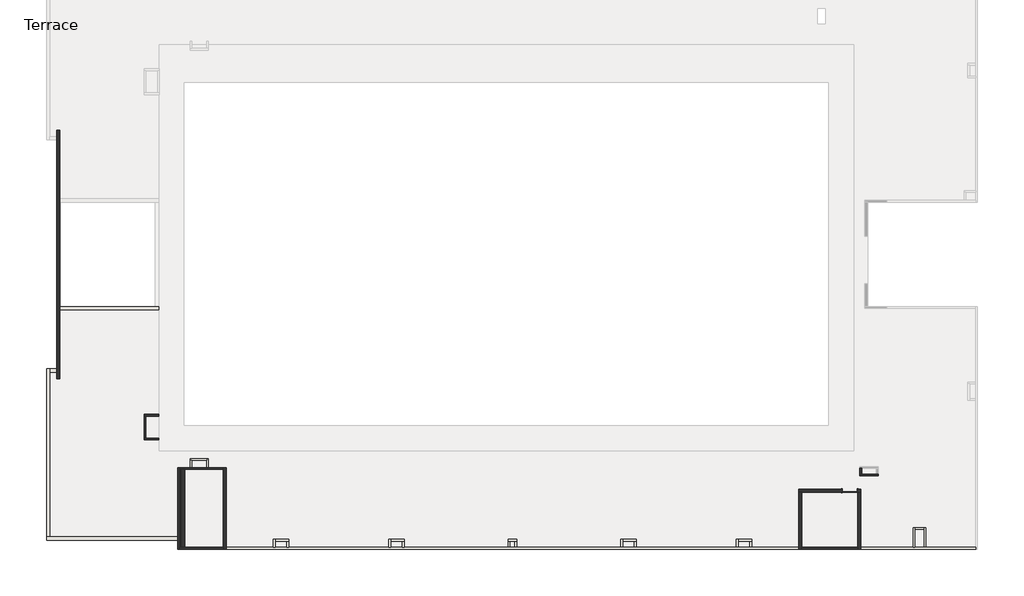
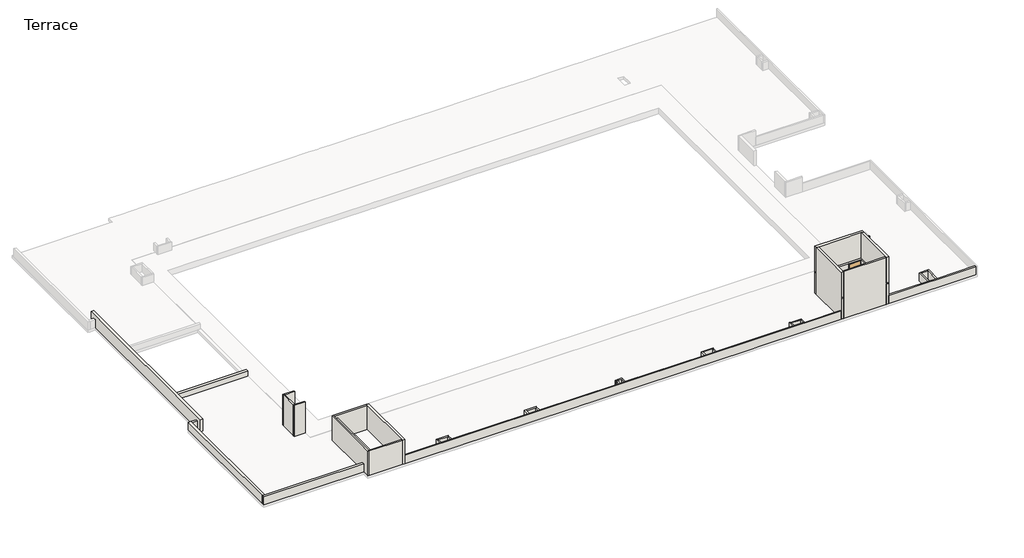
# One storey, part 1 of 3: 42 walls, 1 door.
"""IFC4 building model written with IfcOpenShell, lengths in millimetres."""

import ifcopenshell
import ifcopenshell.guid

model = None  # the IFC model being written
_history = None  # IfcOwnerHistory: only IFC2X3 demands one
_inside = {}  # id of a spatial element -> (the spatial element, [elements in it])
_under = {}  # id of a project, library or spatial element -> (it, [spatial elements below it])
_declared = {}  # id of a project -> (the project, [libraries it declares])
_typed = {}  # id of a type object -> (the type object, [elements of that type])
_made_of = {}  # id of a material, layer set ... -> (it, [elements and type objects made of it])


def new_model(schema):
    """Start an empty IFC model of exactly this schema.

    Asked for "IFC4X3", IfcOpenShell would pick the latest addendum, in which some entities
    have other attributes; the version numbers below select the first issue.
    IFC2X3 requires an IfcOwnerHistory on every rooted entity: one is made here for all.
    """
    global model, _history
    if schema == "IFC4X3":
        model = ifcopenshell.file(schema_version=(4, 3, 0, 0))
    else:
        model = ifcopenshell.file(schema=schema)
    _inside.clear()
    _under.clear()
    _declared.clear()
    _typed.clear()
    _made_of.clear()
    _history = None
    if model.schema == "IFC2X3":
        org = make("IfcOrganization", Name="unknown")
        user = make(
            "IfcPersonAndOrganization",
            ThePerson=make("IfcPerson", FamilyName="unknown"),
            TheOrganization=org,
        )
        app = make(
            "IfcApplication",
            ApplicationDeveloper=org,
            Version="unknown",
            ApplicationFullName="unknown",
            ApplicationIdentifier="unknown",
        )
        _history = make(
            "IfcOwnerHistory",
            OwningUser=user,
            OwningApplication=app,
            ChangeAction="ADDED",
            CreationDate=0,
        )
    return model


def make(cls, **values):
    """One entity of the class cls with the attributes given. An attribute that is None is left unset."""
    return model.create_entity(
        cls, **{name: value for name, value in values.items() if value is not None}
    )


def rooted(cls, **values):
    """An entity with a GlobalId (a new one), such as an element, a storey or a relation."""
    return make(cls, GlobalId=ifcopenshell.guid.new(), OwnerHistory=_history, **values)


def si_unit(unit_type, name, prefix=None):
    """IfcSIUnit, for example si_unit("LENGTHUNIT", "METRE", prefix="MILLI")."""
    return make("IfcSIUnit", UnitType=unit_type, Prefix=prefix, Name=name)


def assignment(units):
    """IfcUnitAssignment: the units of a project."""
    return None if units is None else make("IfcUnitAssignment", Units=units)


def point(xyz):
    """IfcCartesianPoint."""
    return None if xyz is None else make("IfcCartesianPoint", Coordinates=xyz)


def direction(xyz):
    """IfcDirection."""
    return None if xyz is None else make("IfcDirection", DirectionRatios=xyz)


def frame(location, z_axis=None, x_axis=None):
    """IfcAxis2Placement3D, a coordinate frame: its origin and axes. An axis left out is left unset."""
    return make(
        "IfcAxis2Placement3D",
        Location=point(location),
        Axis=direction(z_axis),
        RefDirection=direction(x_axis),
    )


def origin():
    """The frame at (0, 0, 0) with its axes left unset."""
    return frame((0.0, 0.0, 0.0))


def origin_with_axes():
    """The frame at (0, 0, 0) with the z axis (0, 0, 1) and the x axis (1, 0, 0) written out."""
    return frame((0.0, 0.0, 0.0), z_axis=(0.0, 0.0, 1.0), x_axis=(1.0, 0.0, 0.0))


def place(relative_to, where):
    """IfcLocalPlacement: puts the frame where relative to a parent placement (None: the world)."""
    return make(
        "IfcLocalPlacement", PlacementRelTo=relative_to, RelativePlacement=where
    )


def context(
    kind, dimensions, precision=None, world=None, true_north=None, identifier=None
):
    """IfcGeometricRepresentationContext, for example the 3D "Model" context."""
    return make(
        "IfcGeometricRepresentationContext",
        ContextIdentifier=identifier,
        ContextType=kind,
        CoordinateSpaceDimension=dimensions,
        Precision=precision,
        WorldCoordinateSystem=world,
        TrueNorth=true_north,
    )


def project(units=None, contexts=None):
    """IfcProject with its units and contexts."""
    return rooted(
        "IfcProject",
        Name="project",
        RepresentationContexts=contexts,
        UnitsInContext=assignment(units),
    )


def spatial(cls, under=None, at=None, **own):
    """A site, building, storey or space (cls), placed at a placement, below another one or the project."""
    s = rooted(cls, ObjectPlacement=at, **own)
    if under is not None:
        _under.setdefault(under.id(), (under, []))[1].append(s)
    return s


def polyline(points):
    """IfcPolyline through the points."""
    return make("IfcPolyline", Points=[point(p) for p in points])


def outline(outer, holes=None, kind="AREA"):
    """IfcArbitraryClosedProfileDef: a profile drawn as a closed curve; with holes, ...WithVoids."""
    if holes is None:
        return make("IfcArbitraryClosedProfileDef", ProfileType=kind, OuterCurve=outer)
    return make(
        "IfcArbitraryProfileDefWithVoids",
        ProfileType=kind,
        OuterCurve=outer,
        InnerCurves=holes,
    )


def extrude(swept, where, along, depth):
    """IfcExtrudedAreaSolid: the profile swept, set in the frame where, extruded along a direction by depth."""
    return make(
        "IfcExtrudedAreaSolid",
        SweptArea=swept,
        Position=where,
        ExtrudedDirection=direction(along),
        Depth=depth,
    )


def faces_of(points, faces, orient=None, outer=None):
    """IfcFace entities. A face is a list of loops; a loop is a list of indices into points, from 0.

    orient and outer hold one flag for each loop. By default every Orientation is true, the
    first loop of a face is its IfcFaceOuterBound and the others are IfcFaceBound.
    """
    made = []
    for i, loops in enumerate(faces):
        bounds = []
        for j, loop in enumerate(loops):
            is_outer = j == 0 if outer is None else outer[i][j]
            bounds.append(
                make(
                    "IfcFaceOuterBound" if is_outer else "IfcFaceBound",
                    Bound=make("IfcPolyLoop", Polygon=[points[k] for k in loop]),
                    Orientation=True if orient is None else orient[i][j],
                )
            )
        made.append(make("IfcFace", Bounds=bounds))
    return made


def faceted_brep(points, faces, orient=None, outer=None, voids=None):
    """IfcFacetedBrep: a solid bounded by flat faces; with voids (closed shells), ...WithVoids."""
    shared = [point(p) for p in points]
    hull = make("IfcClosedShell", CfsFaces=faces_of(shared, faces, orient, outer))
    if voids is None:
        return make("IfcFacetedBrep", Outer=hull)
    return make(
        "IfcFacetedBrepWithVoids",
        Outer=hull,
        Voids=[
            make(cls, CfsFaces=faces_of(shared, fs, o, b)) for cls, fs, o, b in voids
        ],
    )


def shape(context_of_items, identifier, shape_type, items):
    """IfcShapeRepresentation: the items that make up one representation, for example the "Body"."""
    return make(
        "IfcShapeRepresentation",
        ContextOfItems=context_of_items,
        RepresentationIdentifier=identifier,
        RepresentationType=shape_type,
        Items=items,
    )


def source(mapping_origin, context_of_items, identifier, shape_type, items):
    """IfcRepresentationMap: a shape defined once, which mapped items show again and again."""
    return make(
        "IfcRepresentationMap",
        MappingOrigin=mapping_origin,
        MappedRepresentation=shape(context_of_items, identifier, shape_type, items),
    )


def transform(
    local_origin,
    x_axis=None,
    y_axis=None,
    z_axis=None,
    scale=None,
    scale2=None,
    scale3=None,
    uniform=True,
):
    """IfcCartesianTransformationOperator3D, or its non-uniform kind. x_axis, y_axis, z_axis: its Axis1, 2, 3."""
    if uniform:
        return make(
            "IfcCartesianTransformationOperator3D",
            Axis1=direction(x_axis),
            Axis2=direction(y_axis),
            LocalOrigin=point(local_origin),
            Scale=scale,
            Axis3=direction(z_axis),
        )
    return make(
        "IfcCartesianTransformationOperator3DnonUniform",
        Axis1=direction(x_axis),
        Axis2=direction(y_axis),
        LocalOrigin=point(local_origin),
        Scale=scale,
        Axis3=direction(z_axis),
        Scale2=scale2,
        Scale3=scale3,
    )


def mapped(mapping_source, mapping_target):
    """IfcMappedItem: shows the shape of a source again, moved by a transform."""
    return make(
        "IfcMappedItem", MappingSource=mapping_source, MappingTarget=mapping_target
    )


def made_of(thing, what):
    """Note that an element or type object is made of a material, layer set ...; save() writes the relation."""
    if what is not None:
        _made_of.setdefault(what.id(), (what, []))[1].append(thing)
    return thing


def element(
    cls,
    number,
    at=None,
    inside=None,
    cuts=None,
    type_object=None,
    material=None,
    context=None,
    identifier="Body",
    shape_type=None,
    held_by="IfcProductDefinitionShape",
    body=None,
    shapes=None,
    **own,
):
    """One element of the class cls, such as IfcWall. Its Tag is "e" and its number.

    at: its placement. inside: the storey or other place that contains it. cuts: it is an
    opening in that element (IfcRelVoidsElement). A single representation is given by context,
    identifier, shape_type and body (its items); several are given by shapes. held_by: the class
    of the entity that holds the representations. save() writes the other relations.
    """
    e = rooted(cls, Tag="e%d" % number, ObjectPlacement=at, **own)
    if body is not None:
        shapes = [shape(context, identifier, shape_type, body)]
    if shapes is not None:
        e.Representation = make(held_by, Representations=shapes)
    if inside is not None:
        _inside.setdefault(inside.id(), (inside, []))[1].append(e)
    if cuts is not None:
        rooted(
            "IfcRelVoidsElement", RelatingBuildingElement=cuts, RelatedOpeningElement=e
        )
    if type_object is not None:
        _typed.setdefault(type_object.id(), (type_object, []))[1].append(e)
    return made_of(e, material)


def aggregate(whole, parts):
    """IfcRelAggregates: a whole, such as a stair, and the parts it consists of."""
    return rooted("IfcRelAggregates", RelatingObject=whole, RelatedObjects=parts)


def save(model, path):
    """Write the relations noted so far, then the file.

    IfcRelAggregates (storeys below a building ...), IfcRelContainedInSpatialStructure (elements
    in a storey), IfcRelDefinesByType, IfcRelAssociatesMaterial and IfcRelDeclares: one each for
    every whole, place, type object, material and project.
    """
    for whole, parts in _under.values():
        aggregate(whole, parts)
    for where, things in _inside.values():
        rooted(
            "IfcRelContainedInSpatialStructure",
            RelatedElements=things,
            RelatingStructure=where,
        )
    for kind, things in _typed.values():
        rooted("IfcRelDefinesByType", RelatedObjects=things, RelatingType=kind)
    for what, things in _made_of.values():
        rooted("IfcRelAssociatesMaterial", RelatedObjects=things, RelatingMaterial=what)
    for by, libraries in _declared.values():
        rooted("IfcRelDeclares", RelatingContext=by, RelatedDefinitions=libraries)
    model.write(path)


def m_single_flush_d_1200x2150_9af03719(model_context):
    return source(origin(), model_context, "Body", "SweptSolid", [
        extrude(outline(polyline([(2226.0, -676.0), (0.0, -676.0), (0.0, -600.0), (2150.0, -600.0), (2150.0, 600.0), (0.0, 600.0), (0.0, 676.0), (2226.0, 676.0), (2226.0, -676.0)])), frame((0.0, -153.5, 0.0), z_axis=(0.0, 1.0, 0.0), x_axis=(0.0, 0.0, 1.0)), (0.0, 0.0, 1.0), 25.0),
        extrude(outline(polyline([(2226.0, 676.0), (2226.0, -676.0), (0.0, -676.0), (0.0, -600.0), (2150.0, -600.0), (2150.0, 600.0), (0.0, 600.0), (0.0, 676.0), (2226.0, 676.0)])), frame((0.0, 128.5, 0.0), z_axis=(0.0, 1.0, 0.0), x_axis=(0.0, 0.0, 1.0)), (0.0, 0.0, 1.0), 25.0),
        extrude(outline(polyline([(600.0, -93.5), (600.0, -128.5), (-600.0, -128.5), (-600.0, -93.5), (600.0, -93.5)])), origin_with_axes(), (0.0, 0.0, 1.0), 2150.0),
    ])


model = new_model("IFC4")

# Units and contexts
model_context = context("Model", 3, world=origin())
ifc_project = project(units=[si_unit("LENGTHUNIT", "METRE", prefix="MILLI")], contexts=[model_context])

# Site, building, storey
site = spatial("IfcSite", under=ifc_project)
building = spatial("IfcBuilding", under=site)
storey = spatial("IfcBuildingStorey", under=building, Name="Terrace", Elevation=15000.0)

# Door
placement = place(None, origin())
m_single_flush_d_1200x2150_shape = m_single_flush_d_1200x2150_9af03719(model_context)
element("IfcDoor", 1, ObjectType="M_Single-Flush : D-1200x2150", at=placement, inside=storey, context=model_context, shape_type="MappedRepresentation", body=[
    mapped(m_single_flush_d_1200x2150_shape, transform((32612.4134101, -21171.1148653, 15000.0), x_axis=(1.0, 0.0, 0.0), y_axis=(0.0, 1.0, 0.0), z_axis=(0.0, 0.0, 1.0))),
])

# Walls
element("IfcWall", 2, ObjectType="wall-115", at=placement, inside=storey, context=model_context, shape_type="Brep", body=[
    faceted_brep([(-22595.0865898, -15057.6310718, 15000.0), (-23747.5865898, -15057.6310718, 15000.0), (-23747.5865898, -15057.6310718, 18450.0), (-22595.0865898, -15057.6310718, 18450.0), (-22595.0865898, -15199.6310718, 15000.0), (-22595.0865898, -15199.6310718, 18450.0), (-23605.5865898, -15199.6310718, 18450.0), (-23747.5865898, -15199.6310718, 18450.0), (-23747.5865898, -15199.6310718, 15000.0), (-23605.5865898, -15199.6310718, 15000.0)], [[[0, 1, 2, 3]], [[4, 5, 6, 7, 8, 9]], [[1, 0, 4, 9, 8]], [[3, 2, 7, 6, 5]], [[0, 3, 5, 4]], [[2, 1, 8, 7]]]),
])
element("IfcWall", 3, ObjectType="wall-115", at=placement, inside=storey, context=model_context, shape_type="SweptSolid", body=[
    extrude(outline(polyline([(-23747.5865898, -16972.6148653), (-23747.5865898, -15199.6310718), (-23605.5865898, -15199.6310718), (-23605.5865898, -16972.6148653), (-23747.5865898, -16972.6148653)])), frame((0.0, 0.0, 15000.0), z_axis=(0.0, 0.0, 1.0), x_axis=(1.0, 0.0, 0.0)), (0.0, 0.0, 1.0), 3450.0),
])
element("IfcWall", 4, ObjectType="wall-115", at=placement, inside=storey, context=model_context, shape_type="Brep", body=[
    faceted_brep([(-22595.0865898, -16972.6148653, 15000.0), (-23605.5865898, -16972.6148653, 15000.0), (-23747.5865898, -16972.6148653, 15000.0), (-23747.5865898, -16972.6148653, 18450.0), (-23605.5865898, -16972.6148653, 18450.0), (-22595.0865898, -16972.6148653, 18450.0), (-22595.0865898, -17114.6148653, 15000.0), (-22595.0865898, -17114.6148653, 18450.0), (-23747.5865898, -17114.6148653, 18450.0), (-23747.5865898, -17114.6148653, 15000.0)], [[[0, 1, 2, 3, 4, 5]], [[6, 7, 8, 9]], [[2, 1, 0, 6, 9]], [[5, 4, 3, 8, 7]], [[0, 5, 7, 6]], [[3, 2, 9, 8]]]),
])
element("IfcWall", 5, ObjectType="wall-115", at=placement, inside=storey, context=model_context, shape_type="Brep", body=[
    faceted_brep([(-20909.0865899, -25834.6148653, 15000.0), (-17449.5865899, -25834.6148653, 15000.0), (-17449.5865899, -25834.6148653, 17700.0), (-20909.0865899, -25834.6148653, 17700.0), (-20909.0865899, -25692.6148653, 15000.0), (-20909.0865899, -25692.6148653, 17700.0), (-17449.5865899, -25692.6148653, 17700.0), (-17449.5865899, -25692.6148653, 15000.0), (-20525.5865899, -25692.6148653, 15000.0), (-20782.5865899, -25692.6148653, 15000.0)], [[[0, 1, 2, 3]], [[4, 5, 6, 7, 8, 9]], [[1, 0, 4, 9, 8, 7]], [[3, 2, 6, 5]], [[0, 3, 5, 4]], [[1, 7, 6, 2]]]),
])
element("IfcWall", 6, ObjectType="wall-115", at=placement, inside=storey, context=model_context, shape_type="Brep", body=[
    faceted_brep([(-17192.5865899, -25834.6148653, 15000.0), (28542.4134101, -25834.6148653, 15000.0), (28542.4134101, -25834.6148653, 15900.0), (-17192.5865899, -25834.6148653, 15900.0), (-17192.5865899, -25692.6148653, 15000.0), (-17192.5865899, -25692.6148653, 15900.0), (-13437.5865899, -25692.6148653, 15900.0), (-13295.5865899, -25692.6148653, 15900.0), (-12349.5865899, -25692.6148653, 15900.0), (-12207.5865899, -25692.6148653, 15900.0), (-4207.5865899, -25692.6148653, 15900.0), (-4065.5865899, -25692.6148653, 15900.0), (-3119.5865899, -25692.6148653, 15900.0), (-2977.5865899, -25692.6148653, 15900.0), (5334.9134101, -25692.6148653, 15900.0), (5476.9134101, -25692.6148653, 15900.0), (5872.9134101, -25692.6148653, 15900.0), (6014.9134101, -25692.6148653, 15900.0), (14327.4134101, -25692.6148653, 15900.0), (14469.4134101, -25692.6148653, 15900.0), (15415.4134101, -25692.6148653, 15900.0), (15557.4134101, -25692.6148653, 15900.0), (23557.4134101, -25692.6148653, 15900.0), (23699.4134101, -25692.6148653, 15900.0), (24645.4134101, -25692.6148653, 15900.0), (24787.4134101, -25692.6148653, 15900.0), (28542.4134101, -25692.6148653, 15900.0), (28542.4134101, -25692.6148653, 15000.0), (24787.4134101, -25692.6148653, 15000.0), (24645.4134101, -25692.6148653, 15000.0), (23699.4134101, -25692.6148653, 15000.0), (23557.4134101, -25692.6148653, 15000.0), (15557.4134101, -25692.6148653, 15000.0), (15415.4134101, -25692.6148653, 15000.0), (14469.4134101, -25692.6148653, 15000.0), (14327.4134101, -25692.6148653, 15000.0), (6014.9134101, -25692.6148653, 15000.0), (5872.9134101, -25692.6148653, 15000.0), (5476.9134101, -25692.6148653, 15000.0), (5334.9134101, -25692.6148653, 15000.0), (-2977.5865899, -25692.6148653, 15000.0), (-3119.5865899, -25692.6148653, 15000.0), (-4065.5865899, -25692.6148653, 15000.0), (-4207.5865899, -25692.6148653, 15000.0), (-12207.5865899, -25692.6148653, 15000.0), (-12349.5865899, -25692.6148653, 15000.0), (-13295.5865899, -25692.6148653, 15000.0), (-13437.5865899, -25692.6148653, 15000.0)], [[[0, 1, 2, 3]], [[4, 5, 6, 7, 8, 9, 10, 11, 12, 13, 14, 15, 16, 17, 18, 19, 20, 21, 22, 23, 24, 25, 26, 27, 28, 29, 30, 31, 32, 33, 34, 35, 36, 37, 38, 39, 40, 41, 42, 43, 44, 45, 46, 47]], [[1, 0, 4, 47, 46, 45, 44, 43, 42, 41, 40, 39, 38, 37, 36, 35, 34, 33, 32, 31, 30, 29, 28, 27]], [[3, 2, 26, 25, 24, 23, 22, 21, 20, 19, 18, 17, 16, 15, 14, 13, 12, 11, 10, 9, 8, 7, 6, 5]], [[0, 3, 5, 4]], [[2, 1, 27, 26]]]),
])
element("IfcWall", 7, ObjectType="wall-115", at=placement, inside=storey, context=model_context, shape_type="Brep", body=[
    faceted_brep([(-20909.0865899, -25834.6148653, 15000.0), (-20909.0865899, -25692.6148653, 15000.0), (-20909.0865899, -19454.6148653, 15000.0), (-20909.0865899, -19312.6148653, 15000.0), (-20909.0865899, -19312.6148653, 17700.0), (-20909.0865899, -19454.6148653, 17700.0), (-20909.0865899, -25692.6148653, 17700.0), (-20909.0865899, -25834.6148653, 17700.0), (-21051.0865899, -25834.6148653, 15000.0), (-21051.0865899, -25834.6148653, 17700.0), (-21051.0865899, -19312.6148653, 17700.0), (-21051.0865899, -19312.6148653, 15000.0), (-21051.0865899, -24852.6148653, 15000.0), (-21051.0865899, -25109.6148653, 15000.0)], [[[0, 1, 2, 3, 4, 5, 6, 7]], [[8, 9, 10, 11, 12, 13]], [[3, 2, 1, 0, 8, 13, 12, 11]], [[7, 6, 5, 4, 10, 9]], [[0, 7, 9, 8]], [[4, 3, 11, 10]]]),
])
element("IfcWall", 8, ObjectType="wall-115", at=placement, inside=storey, context=model_context, shape_type="Brep", body=[
    faceted_brep([(14469.4134101, -25692.6148653, 15000.0), (14469.4134101, -25204.6148653, 15000.0), (14469.4134101, -25062.6148653, 15000.0), (14469.4134101, -25062.6148653, 15900.0), (14469.4134101, -25204.6148653, 15900.0), (14469.4134101, -25692.6148653, 15900.0), (14327.4134101, -25692.6148653, 15000.0), (14327.4134101, -25692.6148653, 15900.0), (14327.4134101, -25062.6148653, 15900.0), (14327.4134101, -25062.6148653, 15000.0)], [[[0, 1, 2, 3, 4, 5]], [[6, 7, 8, 9]], [[2, 1, 0, 6, 9]], [[5, 4, 3, 8, 7]], [[3, 2, 9, 8]], [[0, 5, 7, 6]]]),
])
element("IfcWall", 9, ObjectType="wall-115", at=placement, inside=storey, context=model_context, shape_type="Brep", body=[
    faceted_brep([(14469.4134101, -25204.6148653, 15000.0), (15415.4134101, -25204.6148653, 15000.0), (15557.4134101, -25204.6148653, 15000.0), (15557.4134101, -25204.6148653, 15900.0), (15415.4134101, -25204.6148653, 15900.0), (14469.4134101, -25204.6148653, 15900.0), (14469.4134101, -25062.6148653, 15000.0), (14469.4134101, -25062.6148653, 15900.0), (15557.4134101, -25062.6148653, 15900.0), (15557.4134101, -25062.6148653, 15000.0)], [[[0, 1, 2, 3, 4, 5]], [[6, 7, 8, 9]], [[2, 1, 0, 6, 9]], [[5, 4, 3, 8, 7]], [[3, 2, 9, 8]], [[0, 5, 7, 6]]]),
])
element("IfcWall", 10, ObjectType="wall-115", at=placement, inside=storey, context=model_context, shape_type="SweptSolid", body=[
    extrude(outline(polyline([(15415.4134101, -25692.6148653), (15415.4134101, -25204.6148653), (15557.4134101, -25204.6148653), (15557.4134101, -25692.6148653), (15415.4134101, -25692.6148653)])), frame((0.0, 0.0, 15000.0), z_axis=(0.0, 0.0, 1.0), x_axis=(1.0, 0.0, 0.0)), (0.0, 0.0, 1.0), 900.0),
])
element("IfcWall", 11, ObjectType="wall-115", at=placement, inside=storey, context=model_context, shape_type="Brep", body=[
    faceted_brep([(-4065.5865899, -25692.6148653, 15000.0), (-4065.5865899, -25204.6148653, 15000.0), (-4065.5865899, -25062.6148653, 15000.0), (-4065.5865899, -25062.6148653, 15900.0), (-4065.5865899, -25204.6148653, 15900.0), (-4065.5865899, -25692.6148653, 15900.0), (-4207.5865899, -25692.6148653, 15000.0), (-4207.5865899, -25692.6148653, 15900.0), (-4207.5865899, -25062.6148653, 15900.0), (-4207.5865899, -25062.6148653, 15000.0)], [[[0, 1, 2, 3, 4, 5]], [[6, 7, 8, 9]], [[2, 1, 0, 6, 9]], [[5, 4, 3, 8, 7]], [[3, 2, 9, 8]], [[0, 5, 7, 6]]]),
])
element("IfcWall", 12, ObjectType="wall-115", at=placement, inside=storey, context=model_context, shape_type="Brep", body=[
    faceted_brep([(-4065.5865899, -25204.6148653, 15000.0), (-3119.5865899, -25204.6148653, 15000.0), (-2977.5865899, -25204.6148653, 15000.0), (-2977.5865899, -25204.6148653, 15900.0), (-3119.5865899, -25204.6148653, 15900.0), (-4065.5865899, -25204.6148653, 15900.0), (-4065.5865899, -25062.6148653, 15000.0), (-4065.5865899, -25062.6148653, 15900.0), (-2977.5865899, -25062.6148653, 15900.0), (-2977.5865899, -25062.6148653, 15000.0)], [[[0, 1, 2, 3, 4, 5]], [[6, 7, 8, 9]], [[2, 1, 0, 6, 9]], [[5, 4, 3, 8, 7]], [[0, 5, 7, 6]], [[3, 2, 9, 8]]]),
])
element("IfcWall", 13, ObjectType="wall-115", at=placement, inside=storey, context=model_context, shape_type="SweptSolid", body=[
    extrude(outline(polyline([(-3119.5865899, -25692.6148653), (-3119.5865899, -25204.6148653), (-2977.5865899, -25204.6148653), (-2977.5865899, -25692.6148653), (-3119.5865899, -25692.6148653)])), frame((0.0, 0.0, 15000.0), z_axis=(0.0, 0.0, 1.0), x_axis=(1.0, 0.0, 0.0)), (0.0, 0.0, 1.0), 900.0),
])
element("IfcWall", 14, ObjectType="wall-115", at=placement, inside=storey, context=model_context, shape_type="Brep", body=[
    faceted_brep([(23699.4134101, -25692.6148653, 15000.0), (23699.4134101, -25204.6148653, 15000.0), (23699.4134101, -25062.6148653, 15000.0), (23699.4134101, -25062.6148653, 15900.0), (23699.4134101, -25204.6148653, 15900.0), (23699.4134101, -25692.6148653, 15900.0), (23557.4134101, -25692.6148653, 15000.0), (23557.4134101, -25692.6148653, 15900.0), (23557.4134101, -25062.6148653, 15900.0), (23557.4134101, -25062.6148653, 15000.0)], [[[0, 1, 2, 3, 4, 5]], [[6, 7, 8, 9]], [[2, 1, 0, 6, 9]], [[5, 4, 3, 8, 7]], [[3, 2, 9, 8]], [[0, 5, 7, 6]]]),
])
element("IfcWall", 15, ObjectType="wall-115", at=placement, inside=storey, context=model_context, shape_type="Brep", body=[
    faceted_brep([(23699.4134101, -25204.6148653, 15000.0), (24645.4134101, -25204.6148653, 15000.0), (24787.4134101, -25204.6148653, 15000.0), (24787.4134101, -25204.6148653, 15900.0), (24645.4134101, -25204.6148653, 15900.0), (23699.4134101, -25204.6148653, 15900.0), (23699.4134101, -25062.6148653, 15000.0), (23699.4134101, -25062.6148653, 15900.0), (24787.4134101, -25062.6148653, 15900.0), (24787.4134101, -25062.6148653, 15000.0)], [[[0, 1, 2, 3, 4, 5]], [[6, 7, 8, 9]], [[2, 1, 0, 6, 9]], [[5, 4, 3, 8, 7]], [[3, 2, 9, 8]], [[0, 5, 7, 6]]]),
])
element("IfcWall", 16, ObjectType="wall-115", at=placement, inside=storey, context=model_context, shape_type="SweptSolid", body=[
    extrude(outline(polyline([(24645.4134101, -25692.6148653), (24645.4134101, -25204.6148653), (24787.4134101, -25204.6148653), (24787.4134101, -25692.6148653), (24645.4134101, -25692.6148653)])), frame((0.0, 0.0, 15000.0), z_axis=(0.0, 0.0, 1.0), x_axis=(1.0, 0.0, 0.0)), (0.0, 0.0, 1.0), 900.0),
])
element("IfcWall", 17, ObjectType="wall-115", at=placement, inside=storey, context=model_context, shape_type="Brep", body=[
    faceted_brep([(5334.9134101, -25204.6148653, 15000.0), (5476.9134101, -25204.6148653, 15000.0), (5872.9134101, -25204.6148653, 15000.0), (6014.9134101, -25204.6148653, 15000.0), (6014.9134101, -25204.6148653, 15900.0), (5872.9134101, -25204.6148653, 15900.0), (5476.9134101, -25204.6148653, 15900.0), (5334.9134101, -25204.6148653, 15900.0), (5334.9134101, -25062.6148653, 15000.0), (5334.9134101, -25062.6148653, 15900.0), (6014.9134101, -25062.6148653, 15900.0), (6014.9134101, -25062.6148653, 15000.0)], [[[0, 1, 2, 3, 4, 5, 6, 7]], [[8, 9, 10, 11]], [[3, 2, 1, 0, 8, 11]], [[7, 6, 5, 4, 10, 9]], [[0, 7, 9, 8]], [[4, 3, 11, 10]]]),
])
element("IfcWall", 18, ObjectType="wall-115", at=placement, inside=storey, context=model_context, shape_type="Brep", body=[
    faceted_brep([(-13295.5865899, -25692.6148653, 15000.0), (-13295.5865899, -25204.6148653, 15000.0), (-13295.5865899, -25062.6148653, 15000.0), (-13295.5865899, -25062.6148653, 15900.0), (-13295.5865899, -25204.6148653, 15900.0), (-13295.5865899, -25692.6148653, 15900.0), (-13437.5865899, -25692.6148653, 15000.0), (-13437.5865899, -25692.6148653, 15900.0), (-13437.5865899, -25062.6148653, 15900.0), (-13437.5865899, -25062.6148653, 15000.0)], [[[0, 1, 2, 3, 4, 5]], [[6, 7, 8, 9]], [[2, 1, 0, 6, 9]], [[5, 4, 3, 8, 7]], [[3, 2, 9, 8]], [[0, 5, 7, 6]]]),
])
element("IfcWall", 19, ObjectType="wall-115", at=placement, inside=storey, context=model_context, shape_type="Brep", body=[
    faceted_brep([(-13295.5865899, -25204.6148653, 15000.0), (-12349.5865899, -25204.6148653, 15000.0), (-12207.5865899, -25204.6148653, 15000.0), (-12207.5865899, -25204.6148653, 15900.0), (-12349.5865899, -25204.6148653, 15900.0), (-13295.5865899, -25204.6148653, 15900.0), (-13295.5865899, -25062.6148653, 15000.0), (-13295.5865899, -25062.6148653, 15900.0), (-12207.5865899, -25062.6148653, 15900.0), (-12207.5865899, -25062.6148653, 15000.0)], [[[0, 1, 2, 3, 4, 5]], [[6, 7, 8, 9]], [[2, 1, 0, 6, 9]], [[5, 4, 3, 8, 7]], [[0, 5, 7, 6]], [[3, 2, 9, 8]]]),
])
element("IfcWall", 20, ObjectType="wall-115", at=placement, inside=storey, context=model_context, shape_type="SweptSolid", body=[
    extrude(outline(polyline([(-12349.5865899, -25692.6148653), (-12349.5865899, -25204.6148653), (-12207.5865899, -25204.6148653), (-12207.5865899, -25692.6148653), (-12349.5865899, -25692.6148653)])), frame((0.0, 0.0, 15000.0), z_axis=(0.0, 0.0, 1.0), x_axis=(1.0, 0.0, 0.0)), (0.0, 0.0, 1.0), 900.0),
])
element("IfcWall", 21, ObjectType="wall-115", at=placement, inside=storey, context=model_context, shape_type="SweptSolid", body=[
    extrude(outline(polyline([(5476.9134101, -25204.6148653), (5476.9134101, -25692.6148653), (5334.9134101, -25692.6148653), (5334.9134101, -25204.6148653), (5476.9134101, -25204.6148653)])), frame((0.0, 0.0, 15000.0), z_axis=(0.0, 0.0, 1.0), x_axis=(1.0, 0.0, 0.0)), (0.0, 0.0, 1.0), 900.0),
])
element("IfcWall", 22, ObjectType="wall-115", at=placement, inside=storey, context=model_context, shape_type="SweptSolid", body=[
    extrude(outline(polyline([(5872.9134101, -25692.6148653), (5872.9134101, -25204.6148653), (6014.9134101, -25204.6148653), (6014.9134101, -25692.6148653), (5872.9134101, -25692.6148653)])), frame((0.0, 0.0, 15000.0), z_axis=(0.0, 0.0, 1.0), x_axis=(1.0, 0.0, 0.0)), (0.0, 0.0, 1.0), 900.0),
])
element("IfcWall", 23, ObjectType="wall-115", at=placement, inside=storey, context=model_context, shape_type="Brep", body=[
    faceted_brep([(34889.4134101, -19845.6148653, 15000.0), (34747.4134101, -19845.6148653, 15000.0), (33574.4134101, -19845.6148653, 15000.0), (33432.4134101, -19845.6148653, 15000.0), (33432.4134101, -19845.6148653, 18450.0), (33574.4134101, -19845.6148653, 18450.0), (34747.4134101, -19845.6148653, 18450.0), (34889.4134101, -19845.6148653, 18450.0), (34889.4134101, -19987.6148653, 15000.0), (34889.4134101, -19987.6148653, 18450.0), (33432.4134101, -19987.6148653, 18450.0), (33432.4134101, -19987.6148653, 15000.0)], [[[0, 1, 2, 3, 4, 5, 6, 7]], [[8, 9, 10, 11]], [[3, 2, 1, 0, 8, 11]], [[7, 6, 5, 4, 10, 9]], [[4, 3, 11, 10]], [[0, 7, 9, 8]]]),
])
element("IfcWall", 24, ObjectType="wall-115", at=placement, inside=storey, context=model_context, shape_type="Brep", body=[
    faceted_brep([(37834.4134101, -25692.6148653, 15000.0), (37834.4134101, -24257.6148653, 15000.0), (37834.4134101, -24115.6148653, 15000.0), (37834.4134101, -24115.6148653, 15900.0), (37834.4134101, -24257.6148653, 15900.0), (37834.4134101, -25692.6148653, 15900.0), (37692.4134101, -25692.6148653, 15000.0), (37692.4134101, -25692.6148653, 15900.0), (37692.4134101, -24115.6148653, 15900.0), (37692.4134101, -24115.6148653, 15000.0)], [[[0, 1, 2, 3, 4, 5]], [[6, 7, 8, 9]], [[2, 1, 0, 6, 9]], [[5, 4, 3, 8, 7]], [[3, 2, 9, 8]], [[0, 5, 7, 6]]]),
])
element("IfcWall", 25, ObjectType="wall-115", at=placement, inside=storey, context=model_context, shape_type="Brep", body=[
    faceted_brep([(38699.4134101, -25692.6148653, 15000.0), (38699.4134101, -24115.6148653, 15000.0), (38699.4134101, -24115.6148653, 15900.0), (38699.4134101, -25692.6148653, 15900.0), (38557.4134101, -25692.6148653, 15000.0), (38557.4134101, -25692.6148653, 15900.0), (38557.4134101, -24257.6148653, 15900.0), (38557.4134101, -24115.6148653, 15900.0), (38557.4134101, -24115.6148653, 15000.0), (38557.4134101, -24257.6148653, 15000.0)], [[[0, 1, 2, 3]], [[4, 5, 6, 7, 8, 9]], [[1, 0, 4, 9, 8]], [[3, 2, 7, 6, 5]], [[2, 1, 8, 7]], [[0, 3, 5, 4]]]),
])
element("IfcWall", 26, ObjectType="wall-115", at=placement, inside=storey, context=model_context, shape_type="SweptSolid", body=[
    extrude(outline(polyline([(37834.4134101, -24115.6148653), (38557.4134101, -24115.6148653), (38557.4134101, -24257.6148653), (37834.4134101, -24257.6148653), (37834.4134101, -24115.6148653)])), frame((0.0, 0.0, 15000.0), z_axis=(0.0, 0.0, 1.0), x_axis=(1.0, 0.0, 0.0)), (0.0, 0.0, 1.0), 900.0),
])
element("IfcWall", 27, ObjectType="wall-115", at=placement, inside=storey, context=model_context, shape_type="Brep", body=[
    faceted_brep([(28799.4134101, -25834.6148653, 15000.0), (33247.4134101, -25834.6148653, 15000.0), (33247.4134101, -25834.6148653, 17250.0), (33247.4134101, -25834.6148653, 17400.0), (33247.4134101, -25834.6148653, 20200.0), (28799.4134101, -25834.6148653, 20200.0), (28799.4134101, -25834.6148653, 17400.0), (28799.4134101, -25834.6148653, 17250.0), (28799.4134101, -25692.6148653, 15000.0), (28799.4134101, -25692.6148653, 20200.0), (33247.4134101, -25692.6148653, 20200.0), (33247.4134101, -25692.6148653, 15000.0)], [[[0, 1, 2, 3, 4, 5, 6, 7]], [[8, 9, 10, 11]], [[1, 0, 8, 11]], [[5, 4, 10, 9]], [[0, 7, 6, 5, 9, 8]], [[1, 11, 10, 4, 3, 2]]]),
])
element("IfcWall", 28, ObjectType="wall-115", at=placement, inside=storey, context=model_context, shape_type="Brep", body=[
    faceted_brep([(-17449.5865899, -19312.6148653, 15000.0), (-18625.5865899, -19312.6148653, 15000.0), (-18767.5865899, -19312.6148653, 15000.0), (-19937.5865899, -19312.6148653, 15000.0), (-20079.5865899, -19312.6148653, 15000.0), (-20909.0865899, -19312.6148653, 15000.0), (-20909.0865899, -19312.6148653, 17700.0), (-17449.5865899, -19312.6148653, 17700.0), (-17449.5865899, -19454.6148653, 15000.0), (-17449.5865899, -19454.6148653, 17700.0), (-20909.0865899, -19454.6148653, 17700.0), (-20909.0865899, -19454.6148653, 15000.0), (-20782.5865899, -19454.6148653, 15000.0), (-20525.5865899, -19454.6148653, 15000.0)], [[[0, 1, 2, 3, 4, 5, 6, 7]], [[8, 9, 10, 11, 12, 13]], [[5, 4, 3, 2, 1, 0, 8, 13, 12, 11]], [[7, 6, 10, 9]], [[6, 5, 11, 10]], [[0, 7, 9, 8]]]),
])
element("IfcWall", 29, ObjectType="wall-115", at=placement, inside=storey, context=model_context, shape_type="Brep", body=[
    faceted_brep([(-18625.5865899, -19312.6148653, 15000.0), (-18625.5865899, -18600.6148653, 15000.0), (-18625.5865899, -18600.6148653, 15900.0), (-18625.5865899, -19312.6148653, 15900.0), (-18767.5865899, -19312.6148653, 15000.0), (-18767.5865899, -19312.6148653, 15900.0), (-18767.5865899, -18742.6148653, 15900.0), (-18767.5865899, -18600.6148653, 15900.0), (-18767.5865899, -18600.6148653, 15000.0), (-18767.5865899, -18742.6148653, 15000.0)], [[[0, 1, 2, 3]], [[4, 5, 6, 7, 8, 9]], [[1, 0, 4, 9, 8]], [[3, 2, 7, 6, 5]], [[2, 1, 8, 7]], [[0, 3, 5, 4]]]),
])
element("IfcWall", 30, ObjectType="wall-115", at=placement, inside=storey, context=model_context, shape_type="Brep", body=[
    faceted_brep([(-18767.5865899, -18600.6148653, 15000.0), (-20079.5865899, -18600.6148653, 15000.0), (-20079.5865899, -18600.6148653, 15900.0), (-18767.5865899, -18600.6148653, 15900.0), (-18767.5865899, -18742.6148653, 15000.0), (-18767.5865899, -18742.6148653, 15900.0), (-19937.5865899, -18742.6148653, 15900.0), (-20079.5865899, -18742.6148653, 15900.0), (-20079.5865899, -18742.6148653, 15000.0), (-19937.5865899, -18742.6148653, 15000.0)], [[[0, 1, 2, 3]], [[4, 5, 6, 7, 8, 9]], [[1, 0, 4, 9, 8]], [[3, 2, 7, 6, 5]], [[2, 1, 8, 7]], [[0, 3, 5, 4]]]),
])
element("IfcWall", 31, ObjectType="wall-115", at=placement, inside=storey, context=model_context, shape_type="SweptSolid", body=[
    extrude(outline(polyline([(-20079.5865899, -19312.6148653), (-20079.5865899, -18742.6148653), (-19937.5865899, -18742.6148653), (-19937.5865899, -19312.6148653), (-20079.5865899, -19312.6148653)])), frame((0.0, 0.0, 15000.0), z_axis=(0.0, 0.0, 1.0), x_axis=(1.0, 0.0, 0.0)), (0.0, 0.0, 1.0), 900.0),
])
element("IfcWall", 32, ObjectType="wall-115", at=placement, inside=storey, context=model_context, shape_type="SweptSolid", body=[
    extrude(outline(polyline([(33432.4134101, -19845.6148653), (33432.4134101, -19387.6148653), (33574.4134101, -19387.6148653), (33574.4134101, -19845.6148653), (33432.4134101, -19845.6148653)])), frame((0.0, 0.0, 15000.0), z_axis=(0.0, 0.0, 1.0), x_axis=(1.0, 0.0, 0.0)), (0.0, 0.0, 1.0), 3450.0),
])
element("IfcWall", 33, ObjectType="wall-115", at=placement, inside=storey, context=model_context, shape_type="Brep", body=[
    faceted_brep([(33504.4134101, -25834.6148653, 15000.0), (42682.4134101, -25834.6148653, 15000.0), (42682.4134101, -25834.6148653, 15900.0), (33504.4134101, -25834.6148653, 15900.0), (33504.4134101, -25692.6148653, 15000.0), (33504.4134101, -25692.6148653, 15900.0), (37692.4134101, -25692.6148653, 15900.0), (37834.4134101, -25692.6148653, 15900.0), (38557.4134101, -25692.6148653, 15900.0), (38699.4134101, -25692.6148653, 15900.0), (42682.4134101, -25692.6148653, 15900.0), (42682.4134101, -25692.6148653, 15000.0), (38699.4134101, -25692.6148653, 15000.0), (38557.4134101, -25692.6148653, 15000.0), (37834.4134101, -25692.6148653, 15000.0), (37692.4134101, -25692.6148653, 15000.0)], [[[0, 1, 2, 3]], [[4, 5, 6, 7, 8, 9, 10, 11, 12, 13, 14, 15]], [[1, 0, 4, 15, 14, 13, 12, 11]], [[3, 2, 10, 9, 8, 7, 6, 5]], [[2, 1, 11, 10]], [[0, 3, 5, 4]]]),
])
element("IfcWall", 34, ObjectType="wall-230", at=placement, inside=storey, context=model_context, shape_type="Brep", body=[
    faceted_brep([(33504.4134101, -21299.6148653, 20200.0), (33247.4134101, -21299.6148653, 20200.0), (28799.4134101, -21299.6148653, 20200.0), (28542.4134101, -21299.6148653, 20200.0), (28542.4134101, -21299.6148653, 15000.0), (28799.4134101, -21299.6148653, 15000.0), (32012.4134101, -21299.6148653, 15000.0), (32012.4134101, -21299.6148653, 17150.0), (33212.4134101, -21299.6148653, 17150.0), (33212.4134101, -21299.6148653, 15000.0), (33247.4134101, -21299.6148653, 15000.0), (33504.4134101, -21299.6148653, 15000.0), (33492.4134101, -21299.6148653, 17250.0), (33247.4134101, -21299.6148653, 17250.0), (28799.4134101, -21299.6148653, 17250.0), (28557.4134101, -21299.6148653, 17250.0), (28557.4134101, -21299.6148653, 17400.0), (28799.4134101, -21299.6148653, 17400.0), (33247.4134101, -21299.6148653, 17400.0), (33492.4134101, -21299.6148653, 17400.0), (28542.4134101, -21042.6148653, 20200.0), (33504.4134101, -21042.6148653, 20200.0), (33504.4134101, -21042.6148653, 15000.0), (33212.4134101, -21042.6148653, 15000.0), (33212.4134101, -21042.6148653, 17150.0), (32012.4134101, -21042.6148653, 17150.0), (32012.4134101, -21042.6148653, 15000.0), (28542.4134101, -21042.6148653, 15000.0), (33492.4134101, -21057.6148653, 17250.0), (28557.4134101, -21057.6148653, 17250.0), (28557.4134101, -21057.6148653, 17400.0), (33492.4134101, -21057.6148653, 17400.0)], [[[0, 1, 2, 3, 4, 5, 6, 7, 8, 9, 10, 11], [12, 13, 14, 15, 16, 17, 18, 19]], [[20, 21, 22, 23, 24, 25, 26, 27]], [[4, 27, 26, 6, 5]], [[22, 11, 10, 9, 23]], [[3, 2, 1, 0, 21, 20]], [[4, 3, 20, 27]], [[0, 11, 22, 21]], [[8, 24, 23, 9]], [[24, 8, 7, 25]], [[25, 7, 6, 26]], [[28, 29, 15, 14, 13, 12]], [[30, 31, 19, 18, 17, 16]], [[29, 28, 31, 30]], [[31, 28, 12, 19]], [[29, 30, 16, 15]]]),
])
element("IfcWall", 35, ObjectType="wall-230", at=placement, inside=storey, context=model_context, shape_type="SweptSolid", body=[
    extrude(outline(polyline([(-20782.5865899, -25692.6148653), (-20782.5865899, -19454.6148653), (-20525.5865899, -19454.6148653), (-20525.5865899, -25692.6148653), (-20782.5865899, -25692.6148653)])), frame((0.0, 0.0, 15000.0), z_axis=(0.0, 0.0, 1.0), x_axis=(1.0, 0.0, 0.0)), (0.0, 0.0, 1.0), 2400.0),
])
element("IfcWall", 36, ObjectType="wall-230", at=placement, inside=storey, context=model_context, shape_type="Brep", body=[
    faceted_brep([(-22595.0865898, -6460.6148653, 15000.0), (-22899.5865899, -6460.6148653, 15000.0), (-30399.5865899, -6460.6148653, 15000.0), (-30492.5865899, -6460.6148653, 15000.0), (-30492.5865899, -6460.6148653, 15600.0), (-22595.0865898, -6460.6148653, 15600.0), (-22595.0865898, -6717.6148653, 15000.0), (-22595.0865898, -6717.6148653, 15600.0), (-30492.5865899, -6717.6148653, 15600.0), (-30492.5865899, -6717.6148653, 15000.0)], [[[0, 1, 2, 3, 4, 5]], [[6, 7, 8, 9]], [[3, 2, 1, 0, 6, 9]], [[5, 4, 8, 7]], [[0, 5, 7, 6]], [[4, 3, 9, 8]]]),
])
element("IfcWall", 37, ObjectType="wall-230", at=placement, inside=storey, context=model_context, shape_type="Brep", body=[
    faceted_brep([(-31549.5865899, -25109.6148653, 15000.0), (-21051.0865899, -25109.6148653, 15000.0), (-21051.0865899, -25109.6148653, 15900.0), (-31549.5865899, -25109.6148653, 15900.0), (-31549.5865899, -24852.6148653, 15000.0), (-31549.5865899, -24852.6148653, 15900.0), (-31292.5865899, -24852.6148653, 15900.0), (-21051.0865899, -24852.6148653, 15900.0), (-21051.0865899, -24852.6148653, 15000.0), (-31292.5865899, -24852.6148653, 15000.0)], [[[0, 1, 2, 3]], [[4, 5, 6, 7, 8, 9]], [[1, 0, 4, 9, 8]], [[3, 2, 7, 6, 5]], [[0, 3, 5, 4]], [[2, 1, 8, 7]]]),
])
element("IfcWall", 38, ObjectType="wall-230", at=placement, inside=storey, context=model_context, shape_type="Brep", body=[
    faceted_brep([(-31549.5865899, -11437.6148653, 15000.0), (-31549.5865899, -24852.6148653, 15000.0), (-31549.5865899, -24852.6148653, 15900.0), (-31549.5865899, -11437.6148653, 15900.0), (-31292.5865899, -11437.6148653, 15000.0), (-31292.5865899, -11437.6148653, 15900.0), (-31292.5865899, -11694.6148653, 15900.0), (-31292.5865899, -24852.6148653, 15900.0), (-31292.5865899, -24852.6148653, 15000.0), (-31292.5865899, -11694.6148653, 15000.0)], [[[0, 1, 2, 3]], [[4, 5, 6, 7, 8, 9]], [[1, 0, 4, 9, 8]], [[3, 2, 7, 6, 5]], [[0, 3, 5, 4]], [[2, 1, 8, 7]]]),
])
element("IfcWall", 39, ObjectType="wall-230", at=placement, inside=storey, context=model_context, shape_type="SweptSolid", body=[
    extrude(outline(polyline([(-30749.5865899, -11694.6148653), (-31292.5865899, -11694.6148653), (-31292.5865899, -11437.6148653), (-30749.5865899, -11437.6148653), (-30749.5865899, -11694.6148653)])), frame((0.0, 0.0, 15000.0), z_axis=(0.0, 0.0, 1.0), x_axis=(1.0, 0.0, 0.0)), (0.0, 0.0, 1.0), 900.0),
])
element("IfcWall", 40, ObjectType="wall-230", at=placement, inside=storey, context=model_context, shape_type="Brep", body=[
    faceted_brep([(-30492.5865899, -12202.6148653, 15000.0), (-30492.5865899, -6717.6148653, 15000.0), (-30492.5865899, -6460.6148653, 15000.0), (-30492.5865899, 1885.3851348, 15000.0), (-30492.5865899, 2142.3851348, 15000.0), (-30492.5865899, 7627.3851348, 15000.0), (-30492.5865899, 7627.3851348, 16350.0), (-30492.5865899, -12202.6148653, 16350.0), (-30749.5865899, -12202.6148653, 15000.0), (-30749.5865899, -12202.6148653, 16350.0), (-30749.5865899, 7627.3851348, 16350.0), (-30749.5865899, 7627.3851348, 15000.0), (-30749.5865899, 7119.3851348, 15000.0), (-30749.5865899, 6862.3851348, 15000.0), (-30749.5865899, -11437.6148653, 15000.0), (-30749.5865899, -11694.6148653, 15000.0)], [[[0, 1, 2, 3, 4, 5, 6, 7]], [[8, 9, 10, 11, 12, 13, 14, 15]], [[5, 4, 3, 2, 1, 0, 8, 15, 14, 13, 12, 11]], [[6, 5, 11, 10]], [[7, 6, 10, 9]], [[0, 7, 9, 8]]]),
])
element("IfcWall", 41, ObjectType="wall-230", at=placement, inside=storey, context=model_context, shape_type="Brep", body=[
    faceted_brep([(-17192.5865899, -25834.6148653, 17700.0), (-17192.5865899, -25834.6148653, 15900.0), (-17192.5865899, -25834.6148653, 15000.0), (-17192.5865899, -25692.6148653, 15000.0), (-17192.5865899, -19312.6148653, 15000.0), (-17192.5865899, -19312.6148653, 17700.0), (-17449.5865899, -25834.6148653, 15000.0), (-17449.5865899, -25834.6148653, 17700.0), (-17449.5865899, -25692.6148653, 17700.0), (-17449.5865899, -19454.6148653, 17700.0), (-17449.5865899, -19312.6148653, 17700.0), (-17449.5865899, -19312.6148653, 15000.0), (-17449.5865899, -19454.6148653, 15000.0), (-17449.5865899, -25692.6148653, 15000.0)], [[[0, 1, 2, 3, 4, 5]], [[6, 7, 8, 9, 10, 11, 12, 13]], [[4, 3, 2, 6, 13, 12, 11]], [[0, 5, 10, 9, 8, 7]], [[5, 4, 11, 10]], [[0, 7, 6, 2, 1]]]),
])
element("IfcWall", 42, ObjectType="wall-230", at=placement, inside=storey, context=model_context, shape_type="Brep", body=[
    faceted_brep([(33504.4134101, -25834.6148653, 15000.0), (33504.4134101, -25692.6148653, 15000.0), (33504.4134101, -21299.6148653, 15000.0), (33504.4134101, -21299.6148653, 20200.0), (33504.4134101, -25834.6148653, 20200.0), (33504.4134101, -25834.6148653, 15900.0), (33247.4134101, -21299.6148653, 15000.0), (33247.4134101, -25692.6148653, 15000.0), (33247.4134101, -25834.6148653, 15000.0), (33247.4134101, -25834.6148653, 17250.0), (33247.4134101, -21299.6148653, 17250.0), (33247.4134101, -25834.6148653, 20200.0), (33247.4134101, -25692.6148653, 20200.0), (33247.4134101, -21299.6148653, 20200.0), (33247.4134101, -21299.6148653, 17400.0), (33247.4134101, -25834.6148653, 17400.0), (33492.4134101, -25834.6148653, 17400.0), (33492.4134101, -25834.6148653, 17250.0), (33492.4134101, -21299.6148653, 17250.0), (33492.4134101, -21299.6148653, 17400.0)], [[[0, 1, 2, 3, 4, 5]], [[6, 7, 8, 9, 10]], [[11, 12, 13, 14, 15]], [[2, 1, 0, 8, 7, 6]], [[4, 3, 13, 12, 11]], [[8, 0, 5, 4, 11, 15, 16, 17, 9]], [[3, 2, 6, 10, 18, 19, 14, 13]], [[17, 18, 10, 9]], [[19, 16, 15, 14]], [[18, 17, 16, 19]]]),
])
element("IfcWall", 43, ObjectType="wall-230", at=placement, inside=storey, context=model_context, shape_type="Brep", body=[
    faceted_brep([(28799.4134101, -25834.6148653, 15000.0), (28799.4134101, -25692.6148653, 15000.0), (28799.4134101, -21299.6148653, 15000.0), (28799.4134101, -21299.6148653, 17250.0), (28799.4134101, -25834.6148653, 17250.0), (28799.4134101, -21299.6148653, 20200.0), (28799.4134101, -25692.6148653, 20200.0), (28799.4134101, -25834.6148653, 20200.0), (28799.4134101, -25834.6148653, 17400.0), (28799.4134101, -21299.6148653, 17400.0), (28542.4134101, -21299.6148653, 15000.0), (28542.4134101, -25692.6148653, 15000.0), (28542.4134101, -25834.6148653, 15000.0), (28542.4134101, -25834.6148653, 15900.0), (28542.4134101, -25834.6148653, 20200.0), (28542.4134101, -21299.6148653, 20200.0), (28557.4134101, -25834.6148653, 17250.0), (28557.4134101, -25834.6148653, 17400.0), (28557.4134101, -21299.6148653, 17400.0), (28557.4134101, -21299.6148653, 17250.0)], [[[0, 1, 2, 3, 4]], [[5, 6, 7, 8, 9]], [[10, 11, 12, 13, 14, 15]], [[2, 1, 0, 12, 11, 10]], [[7, 6, 5, 15, 14]], [[12, 0, 4, 16, 17, 8, 7, 14, 13]], [[2, 10, 15, 5, 9, 18, 19, 3]], [[19, 16, 4, 3]], [[17, 18, 9, 8]], [[16, 19, 18, 17]]]),
])

save(model, "model.ifc")
